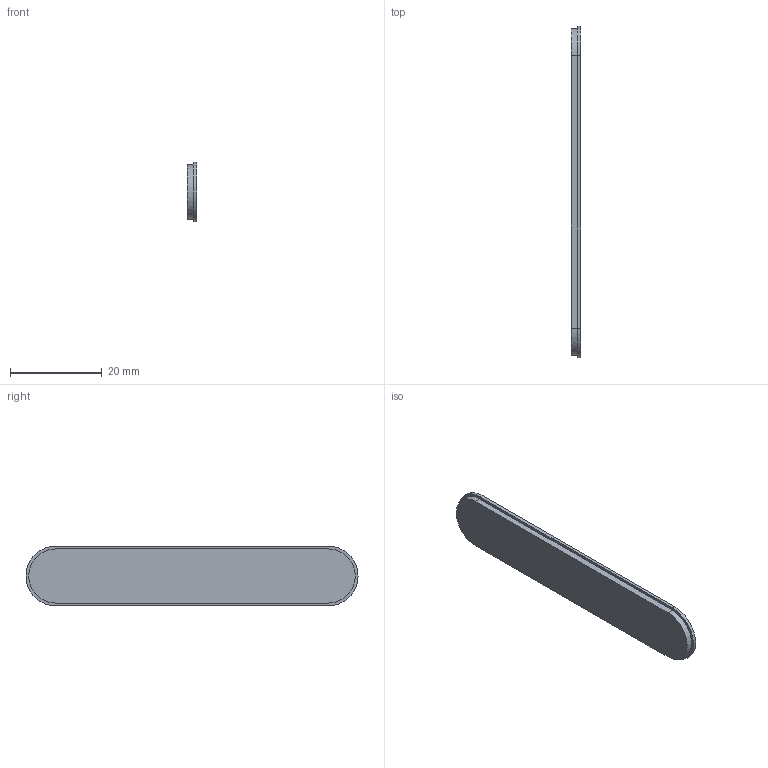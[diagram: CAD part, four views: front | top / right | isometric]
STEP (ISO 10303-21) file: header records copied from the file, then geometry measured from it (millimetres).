
FILE_DESCRIPTION(('Open CASCADE Model'),'2;1');
FILE_NAME('Open CASCADE Shape Model','2026-09-08T13:32:06',('Author'),( 'Open CASCADE'),'Open CASCADE STEP processor 7.7','Open CASCADE 7.7' ,'Unknown');
FILE_SCHEMA(('AUTOMOTIVE_DESIGN { 1 0 10303 214 1 1 1 1 }'));
Length unit declared in the file: millimetre
Products named in the file (1): Open CASCADE STEP translator 7.7 13
Bounding box: 2.05 x 72.4 x 13 mm (x, y, z)
Volume: 1727.3 mm3; surface area: 2132 mm2
Topology: 1 solids, 1 shells, 11 faces, 24 edges, 16 vertices
Faces by surface type: plane 7, cylinder 4
Entity records: 628 total; most frequent: DIRECTION 104, CARTESIAN_POINT 100, LINE 56, VECTOR 56, ORIENTED_EDGE 48, PCURVE 48, DEFINITIONAL_REPRESENTATION 48, EDGE_CURVE 24
